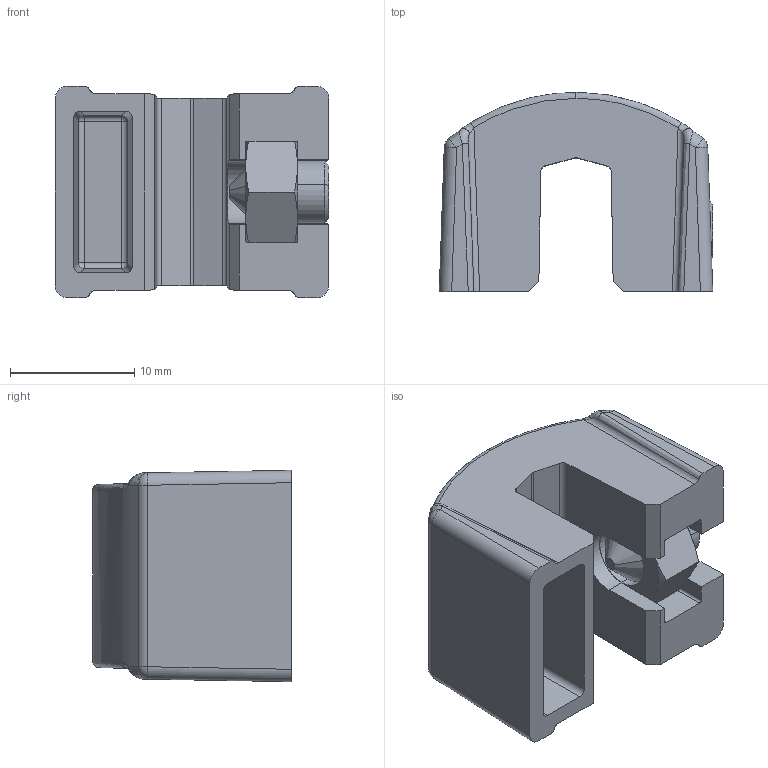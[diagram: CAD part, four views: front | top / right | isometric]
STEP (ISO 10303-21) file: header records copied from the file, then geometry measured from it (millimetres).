
FILE_DESCRIPTION (( 'STEP AP203' ), '1' );
FILE_NAME ('013.100.013.STEP', '2020-10-29T10:05:33', ( '' ), ( '' ), 'SwSTEP 2.0', 'SolidWorks 2018', '' );
FILE_SCHEMA (( 'CONFIG_CONTROL_DESIGN' ));
Length unit declared in the file: millimetre
Products named in the file (4): GRANI A PUNTA CONICA UNI 5927 INOX_M5x8 UNI 5927 INOX; 013.100.013; 013.100.013A; DADI ESAGONALI NORMALI UNI 5588 INOX_M5 UNI 5588 INOX
Assembly tree (3 placements, depth 2):
  013.100.013
    013.100.013A
    DADI ESAGONALI NORMALI UNI 5588 INOX_M5 UNI 5588 INOX
    GRANI A PUNTA CONICA UNI 5927 INOX_M5x8 UNI 5927 INOX
Bounding box: 22 x 16 x 17 mm (x, y, z)
Volume: 3259 mm3; surface area: 2754.4 mm2
Topology: 3 solids, 3 shells, 132 faces, 312 edges, 184 vertices
Faces by surface type: plane 49, cylinder 36, bspline 19, cone 16, sphere 12
Entity records: 4466 total; most frequent: CARTESIAN_POINT 1313, ORIENTED_EDGE 616, DIRECTION 527, EDGE_CURVE 308, AXIS2_PLACEMENT_3D 192, VERTEX_POINT 184, VECTOR 143, LINE 143
